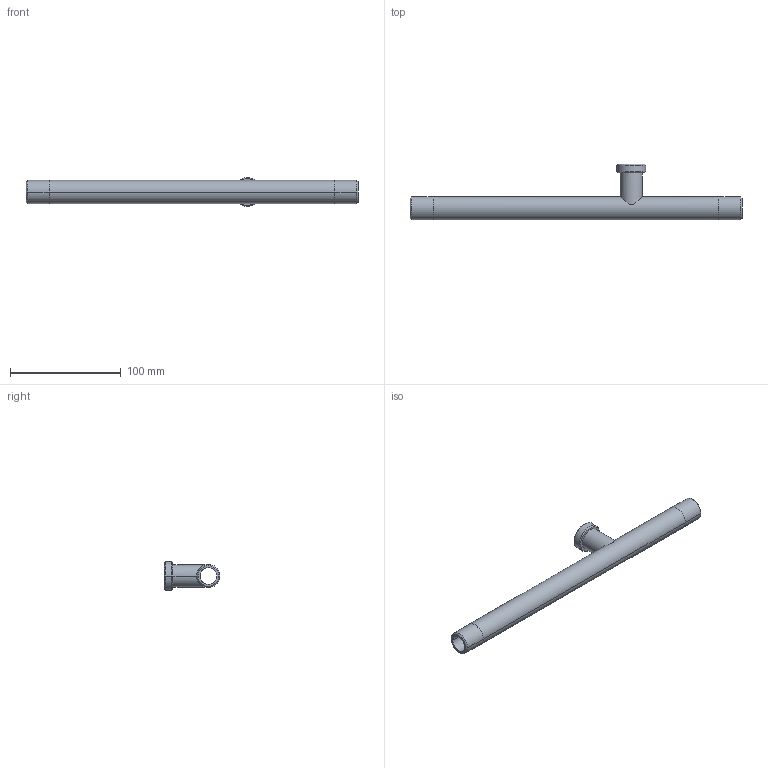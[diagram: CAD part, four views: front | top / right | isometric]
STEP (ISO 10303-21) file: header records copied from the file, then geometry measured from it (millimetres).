
FILE_DESCRIPTION( ( '' ), '1' );
FILE_NAME( '//partserver001.servicenet/client_exchange/iodir/jobs/output/wkb10474058_no0/STEP/e40136_2_03.stp', '2008-05-06T11:13:45', ( '' ), ( '' ), ' ', ' ', ' ' );
FILE_SCHEMA( ( 'CONFIG_CONTROL_DESIGN' ) );
Length unit declared in the file: millimetre
Products named in the file (1): 1
Bounding box: 300 x 50.5 x 26 mm (x, y, z)
Volume: 56734.4 mm3; surface area: 37869.4 mm2
Topology: 1 solids, 1 shells, 31 faces, 69 edges, 43 vertices
Faces by surface type: cylinder 16, cone 8, plane 7
Entity records: 1152 total; most frequent: CARTESIAN_POINT 391, DIRECTION 162, ORIENTED_EDGE 138, EDGE_CURVE 69, AXIS2_PLACEMENT_3D 68, VERTEX_POINT 43, EDGE_LOOP 38, CIRCLE 36
